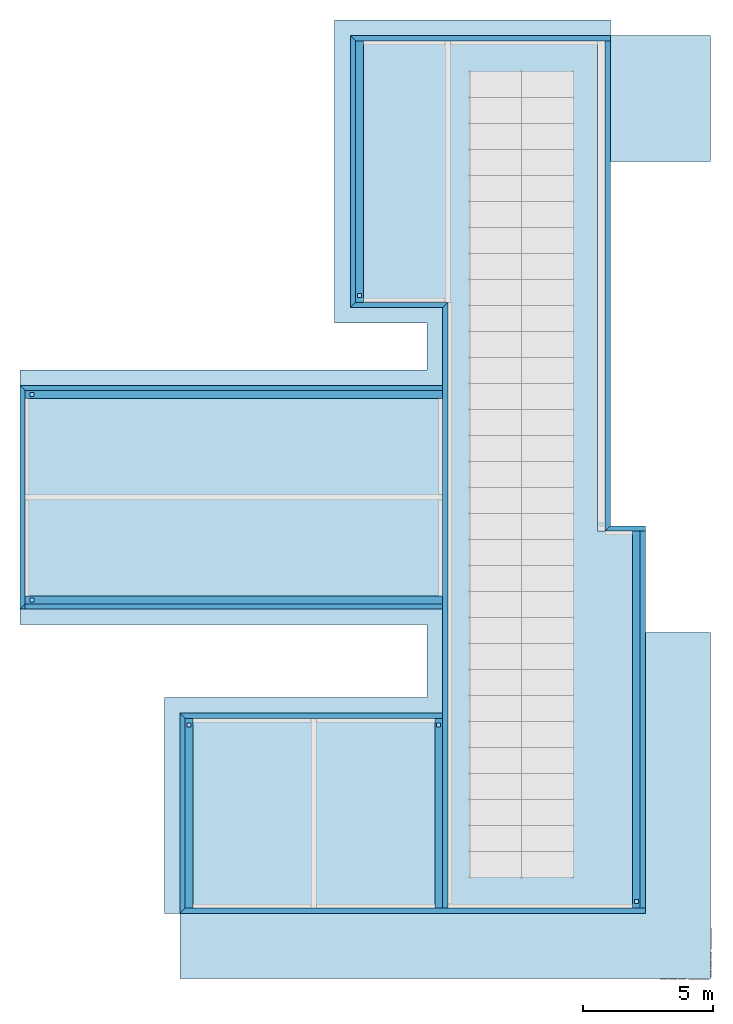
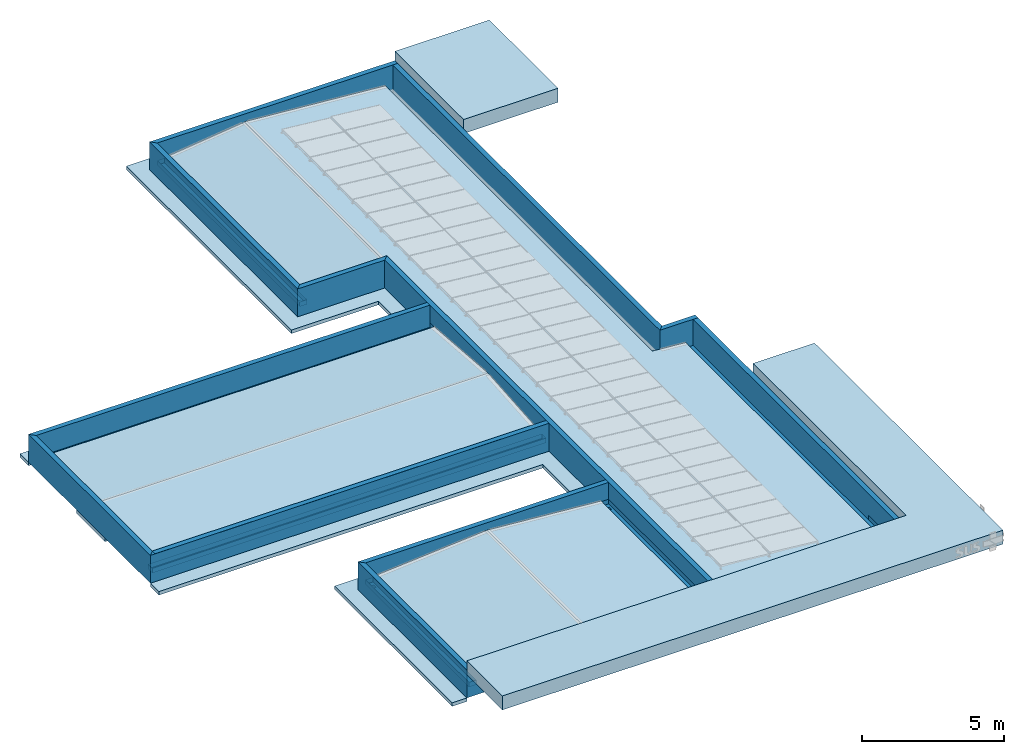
# One storey, part 1 of 5: 14 walls, 11 slabs, 6 discrete accessories.
"""IFC2X3 building model written with IfcOpenShell, lengths in millimetres."""

from ifc_helpers import new_model, entity, si_unit, converted_unit, derived_unit, money_unit, direction, frame, origin_with_axes, place, context, subcontext, project, spatial, polyline, outline, extrude, open_shell, surface_model, material, layer, layer_set, layer_usage, type_object, element, save


model = new_model("IFC2X3")

# Units and contexts
model_context = context("Model", 3, precision=0.01, world=origin_with_axes(), true_north=direction((0.0, 1.0)))
body_context = subcontext(model_context, "Body", "Model", "MODEL_VIEW")
ifc_project = project(units=[si_unit("LENGTHUNIT", "METRE", prefix="MILLI"), si_unit("AREAUNIT", "SQUARE_METRE"), si_unit("VOLUMEUNIT", "CUBIC_METRE"), converted_unit("PLANEANGLEUNIT", "DEGREE", entity("IfcPlaneAngleMeasure", 0.0174532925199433), si_unit("PLANEANGLEUNIT", "RADIAN"), dimensions=[0, 0, 0, 0, 0, 0, 0]), money_unit("USD"), converted_unit("TIMEUNIT", "Year", entity("IfcTimeMeasure", 31556926.0), si_unit("TIMEUNIT", "SECOND"), dimensions=[0, 0, 1, 0, 0, 0, 0]), si_unit("MASSUNIT", "GRAM", prefix="KILO"), si_unit("THERMODYNAMICTEMPERATUREUNIT", "DEGREE_CELSIUS"), si_unit("LUMINOUSINTENSITYUNIT", "LUMEN"), si_unit("ENERGYUNIT", "JOULE", prefix="MEGA"), derived_unit("THERMALCONDUCTANCEUNIT", [(si_unit("POWERUNIT", "WATT"), 1), (si_unit("LENGTHUNIT", "METRE"), -1), (si_unit("THERMODYNAMICTEMPERATUREUNIT", "KELVIN"), -1)]), derived_unit("SPECIFICHEATCAPACITYUNIT", [(si_unit("ENERGYUNIT", "JOULE"), 1), (si_unit("MASSUNIT", "GRAM", prefix="KILO"), -1), (si_unit("THERMODYNAMICTEMPERATUREUNIT", "KELVIN"), -1)]), derived_unit("MASSDENSITYUNIT", [(si_unit("MASSUNIT", "GRAM", prefix="KILO"), 1), (si_unit("VOLUMEUNIT", "CUBIC_METRE"), -1)])], contexts=[model_context])

# Site, building, storey
site_placement = place(None, origin_with_axes())
site = spatial("IfcSite", under=ifc_project, at=site_placement, Name="Site", CompositionType="ELEMENT")
building_placement = place(site_placement, origin_with_axes())
building = spatial("IfcBuilding", under=site, at=building_placement, Name="Building", CompositionType="ELEMENT")
storey_placement = place(building_placement, frame((0.0, 0.0, 3650.0), z_axis=(0.0, 0.0, 1.0), x_axis=(1.0, 0.0, 0.0)))
storey = spatial("IfcBuildingStorey", under=building, at=storey_placement, Name="COBERTURA", CompositionType="ELEMENT", Elevation=3650.0)

# Slabs
ifc_material_1 = material(Name="_GESSO")
ifc_layer_1 = layer(ifc_material_1, 600.0, ventilated="UNKNOWN")
ifc_layer_set_1 = layer_set([ifc_layer_1], Name="_GESSO 600")
ifc_layer_usage_1 = layer_usage(ifc_layer_set_1, "AXIS3", "NEGATIVE", 600.0)
slab_type_1 = type_object("IfcSlabType", Name="_GESSO 600", PredefinedType="FLOOR")
slab_1_placement = place(storey_placement, frame((252024.3447454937, 981.2401305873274, 1599.999999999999), z_axis=(0.0, 0.0, 1.0), x_axis=(1.0, 0.0, 0.0)))
element("IfcSlab", 1, at=slab_1_placement, inside=storey, type_object=slab_type_1, material=ifc_layer_usage_1, Name="Laje Impermeabilizada", PredefinedType="FLOOR", context=body_context, shape_type="SweptSolid", body=[
    extrude(outline(polyline([(0.0, 0.0), (3850.763068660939, 0.0), (3850.763068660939, 4849.999993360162), (0.0, 4849.999993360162), (0.0, 0.0)])), frame((0.0, 0.0, -600.0), z_axis=(0.0, 0.0, 1.0), x_axis=(1.0, 0.0, 0.0)), (0.0, 0.0, 1.0), 600.0),
])
ifc_layer_usage_2 = layer_usage(ifc_layer_set_1, "AXIS3", "NEGATIVE", 600.0)
slab_2_placement = place(storey_placement, frame((253375.1078141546, -27920.56501509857, 1599.999999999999), z_axis=(0.0, 0.0, 1.0), x_axis=(1.0, 0.0, 0.0)))
element("IfcSlab", 2, at=slab_2_placement, inside=storey, type_object=slab_type_1, material=ifc_layer_usage_2, Name="Laje Impermeabilizada", PredefinedType="FLOOR", context=body_context, shape_type="SweptSolid", body=[
    extrude(outline(polyline([(0.0, 0.0), (-17900.16553730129, 0.0), (-17900.16553730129, -2500.000000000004), (2500.0, -2500.000000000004), (2500.0, 199.9998606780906), (2500.0, 10799.97190680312), (0.0, 10799.97190680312), (0.0, 0.0)])), frame((0.0, 0.0, -600.0), z_axis=(0.0, 0.0, 1.0), x_axis=(1.0, 0.0, 0.0)), (0.0, 0.0, 1.0), 600.0),
])
ifc_material_2 = material(Name="_CONTRAPISO")
ifc_layer_2 = layer(ifc_material_2, 30.0, ventilated="UNKNOWN")
ifc_layer_set_2 = layer_set([ifc_layer_2], Name="_CONTRAPISO 30")
ifc_layer_usage_3 = layer_usage(ifc_layer_set_2, "AXIS3", "NEGATIVE", 30.0)
slab_type_2 = type_object("IfcSlabType", Name="_CONTRAPISO 30", PredefinedType="ROOF")
slab_3_placement = place(storey_placement, frame((240823.1864029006, -23020.56497207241, 832.9255922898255), z_axis=(0.0, 0.0, 1.0), x_axis=(0.0, -1.0, 0.0)))
element("IfcSlab", 3, at=slab_3_placement, inside=storey, type_object=slab_type_2, material=ifc_layer_usage_3, Name="Telha em Fibrocimento", PredefinedType="ROOF", context=body_context, shape_type="SweptSolid", body=[
    extrude(outline(polyline([(-2599.999958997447, 4466.071505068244), (-2599.999958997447, 3412.716930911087), (-2599.999958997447, -198.8311291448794), (4700.000043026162, -198.8311291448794), (4700.000043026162, 4466.071505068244), (-2599.999958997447, 4466.071505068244)])), frame((0.0, 0.0, 0.0), z_axis=(0.0, 0.07974522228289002, 0.9968152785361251), x_axis=(1.0, 0.0, 0.0)), (0.0, -0.07974522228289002, 0.9968152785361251), 30.09584688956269),
])
ifc_layer_usage_4 = layer_usage(ifc_layer_set_2, "AXIS3", "NEGATIVE", 30.0)
slab_4_placement = place(storey_placement, frame((242526.7974034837, 5631.240123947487, 425.5637740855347), z_axis=(0.0, 0.0, 1.0), x_axis=(0.0, -1.0, 0.0)))
element("IfcSlab", 4, at=slab_4_placement, inside=storey, type_object=slab_type_2, material=ifc_layer_usage_4, Name="Telha em Fibrocimento", PredefinedType="ROOF", context=body_context, shape_type="SweptSolid", body=[
    extrude(outline(polyline([(0.0, 0.0), (10053.44024991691, 0.0), (10053.44024991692, 3273.594327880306), (0.0, 3273.594327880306), (0.0, 0.0)])), frame((0.0, 0.0, 0.0), z_axis=(0.0, -0.1198623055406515, 0.992790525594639), x_axis=(1.0, 0.0, 0.0)), (0.0, 0.1198623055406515, 0.992790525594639), 30.21785485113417),
])
ifc_layer_usage_5 = layer_usage(ifc_layer_set_2, "AXIS3", "NEGATIVE", 30.0)
slab_5_placement = place(storey_placement, frame((256600.1299483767, -20272.27864581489, -24.01228057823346), z_axis=(0.0, 0.0, 1.0), x_axis=(0.0, 1.0, 0.0)))
element("IfcSlab", 5, at=slab_5_placement, inside=storey, type_object=slab_type_2, material=ifc_layer_usage_5, Name="Telha em Fibrocimento", PredefinedType="ROOF", context=body_context, shape_type="SweptSolid", body=[
    extrude(outline(polyline([(25903.51876976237, 10859.64156959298), (-7448.286369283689, 10859.64156959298), (-7448.286369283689, 3736.845857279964), (7053.673557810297, 3736.845857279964), (7053.673557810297, 5092.15368925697), (25903.51876976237, 5092.15368925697), (25903.51876976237, 10859.64156959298)])), frame((0.0, 0.0, 0.0), z_axis=(0.0, -0.07974522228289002, 0.9968152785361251), x_axis=(1.0, 0.0, 0.0)), (0.0, 0.07974522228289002, 0.9968152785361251), 30.09584688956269),
])
ifc_layer_usage_6 = layer_usage(ifc_layer_set_2, "AXIS3", "NEGATIVE", 30.0)
slab_6_placement = place(storey_placement, frame((245575.0270271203, -8118.648812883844, 422.1750579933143), z_axis=(0.0, 0.0, 1.0), x_axis=(-1.0, 0.0, 0.0)))
element("IfcSlab", 6, at=slab_6_placement, inside=storey, type_object=slab_type_2, material=ifc_layer_usage_6, Name="Telha em Fibrocimento", PredefinedType="ROOF", context=body_context, shape_type="SweptSolid", body=[
    extrude(outline(polyline([(0.0, 0.0), (16048.24177327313, 0.0), (16048.24177327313, 3812.124455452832), (0.0, 3812.124455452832), (0.0, 0.0)])), frame((0.0, 0.0, 0.0), z_axis=(0.0, -0.07974522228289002, 0.9968152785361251), x_axis=(1.0, 0.0, 0.0)), (0.0, 0.07974522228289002, 0.9968152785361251), 30.09584688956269),
])
ifc_layer_usage_7 = layer_usage(ifc_layer_set_2, "AXIS3", "NEGATIVE", 30.0)
slab_7_placement = place(storey_placement, frame((240426.7905881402, -27720.56501509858, 832.9255922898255), z_axis=(0.0, 0.0, 1.0), x_axis=(0.0, 1.0, 0.0)))
element("IfcSlab", 7, at=slab_7_placement, inside=storey, type_object=slab_type_2, material=ifc_layer_usage_7, Name="Telha em Fibrocimento", PredefinedType="ROOF", context=body_context, shape_type="SweptSolid", body=[
    extrude(outline(polyline([(7300.000002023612, 4466.071505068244), (0.0, 4466.071505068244), (0.0, -198.8311291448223), (7300.000002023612, -198.8311291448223), (7300.000002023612, 3412.716930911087), (7300.000002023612, 4466.071505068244)])), frame((0.0, 0.0, 0.0), z_axis=(0.0, 0.07974522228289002, 0.9968152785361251), x_axis=(1.0, 0.0, 0.0)), (0.0, -0.07974522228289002, 0.9968152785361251), 30.09584688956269),
])
ifc_layer_usage_8 = layer_usage(ifc_layer_set_2, "AXIS3", "NEGATIVE", 30.0)
slab_8_placement = place(storey_placement, frame((229526.7852538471, -15718.61661463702, 422.1750579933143), z_axis=(0.0, 0.0, 1.0), x_axis=(1.0, 0.0, 0.0)))
element("IfcSlab", 8, at=slab_8_placement, inside=storey, type_object=slab_type_2, material=ifc_layer_usage_8, Name="Telha em Fibrocimento", PredefinedType="ROOF", context=body_context, shape_type="SweptSolid", body=[
    extrude(outline(polyline([(16048.24177327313, 0.0), (16048.24177327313, 3812.124455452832), (0.0, 3812.124455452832), (0.0, 0.0), (16048.24177327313, 0.0)])), frame((0.0, 0.0, 0.0), z_axis=(0.0, -0.07974522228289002, 0.9968152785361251), x_axis=(1.0, 0.0, 0.0)), (0.0, 0.07974522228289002, 0.9968152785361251), 30.09584688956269),
])
ifc_material_3 = material(Name="_CONCRETO")
ifc_layer_3 = layer(ifc_material_3, 150.0, ventilated="UNKNOWN")
ifc_layer_set_3 = layer_set([ifc_layer_3], Name="CC_Laje")
ifc_layer_usage_9 = layer_usage(ifc_layer_set_3, "AXIS3", "NEGATIVE", 150.0)
slab_type_3 = type_object("IfcSlabType", Name="CC_Laje 150", PredefinedType="FLOOR")
slab_9_placement = place(storey_placement, frame((229326.7921033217, -7622.157191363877, 0.0), z_axis=(0.0, 0.0, 1.0), x_axis=(1.0, 0.0, 0.0)))
element("IfcSlab", 9, at=slab_9_placement, inside=storey, type_object=slab_type_3, material=ifc_layer_usage_9, Name="Laje Impermeabilizada", PredefinedType="FLOOR", context=body_context, shape_type="SweptSolid", body=[
    extrude(outline(polyline([(0.0, 0.0), (16248.24252487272, 0.0), (16248.24252487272, 2999.957065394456), (12700.04354631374, 2999.957065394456), (12700.04354631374, 13453.39720008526), (22697.55264217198, 13453.39720008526), (22697.55264217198, 14053.39730724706), (12100.04343915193, 14053.39730724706), (12100.04343915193, 13453.39720008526), (12100.04343915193, 2399.956958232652), (15648.64640276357, 2399.956958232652), (15648.64640276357, 600.0001071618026), (0.0, 600.0001071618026), (0.0, 0.0)])), frame((0.0, 0.0, -150.0), z_axis=(0.0, 0.0, 1.0), x_axis=(1.0, 0.0, 0.0)), (0.0, 0.0, 1.0), 150.0),
])
ifc_layer_usage_10 = layer_usage(ifc_layer_set_3, "AXIS3", "NEGATIVE", 150.0)
slab_10_placement = place(storey_placement, frame((229326.7921033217, -16818.60505579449, 0.0), z_axis=(0.0, 0.0, 1.0), x_axis=(1.0, 0.0, 0.0)))
element("IfcSlab", 10, at=slab_10_placement, inside=storey, type_object=slab_type_3, material=ifc_layer_usage_10, Name="Laje Impermeabilizada", PredefinedType="FLOOR", context=body_context, shape_type="SweptSolid", body=[
    extrude(outline(polyline([(0.0, 0.0), (15648.24256091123, 0.0), (15648.24256091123, -2801.960004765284), (12848.78979632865, -2801.960004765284), (11751.71558569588, -2801.960004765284), (11151.71562358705, -2801.960004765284), (5548.150235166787, -2801.960004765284), (5548.150235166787, -11101.95995930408), (6148.150197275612, -11101.95995930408), (6148.150197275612, -3401.959966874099), (11151.71562358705, -3401.959966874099), (13451.71557407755, -3401.959966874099), (16248.24261086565, -3401.959966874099), (16248.24261086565, 599.9999621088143), (0.0, 599.9999621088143), (0.0, 0.0)])), frame((0.0, 0.0, -150.0), z_axis=(0.0, 0.0, 1.0), x_axis=(1.0, 0.0, 0.0)), (0.0, 0.0, 1.0), 150.0),
])
ifc_layer_usage_11 = layer_usage(ifc_layer_set_3, "AXIS3", "NEGATIVE", 150.0)
slab_11_placement = place(storey_placement, frame((229526.7921033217, -16022.19467697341, 0.0), z_axis=(0.0, 0.0, 1.0), x_axis=(1.0, 0.0, 0.0)))
element("IfcSlab", 11, at=slab_11_placement, inside=storey, type_object=slab_type_3, material=ifc_layer_usage_11, Name="LAJE COBERTURA", PredefinedType="FLOOR", context=body_context, shape_type="SweptSolid", body=[
    extrude(outline(polyline([(0.0, 0.0), (16248.2426108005, 0.0), (16248.24261086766, -4398.370254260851), (13451.71566715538, -4398.370254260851), (10751.71567674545, -4398.370336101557), (6148.150173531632, -4398.370336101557), (6148.150173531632, -11698.37033812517), (13451.71566715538, -11698.37033812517), (23648.31576668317, -11698.37033812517), (23648.31576668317, -5550.177425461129), (23648.31576668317, -4398.370254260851), (23648.31576668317, 2803.589588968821), (22297.40124694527, 2803.589588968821), (22297.40124694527, 21653.4348009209), (12700.04348259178, 21653.4348009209), (12700.04348259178, 11599.99467697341), (16248.24261093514, 11599.99467697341), (16248.24261084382, 8200.037485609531), (0.0, 8200.037485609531), (0.0, 4999.999958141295), (-199.9999999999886, 4999.999958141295), (-199.9999999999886, 2996.261466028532), (0.0, 2996.261466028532), (0.0, 0.0)])), frame((0.0, 0.0, -150.0), z_axis=(0.0, 0.0, 1.0), x_axis=(1.0, 0.0, 0.0)), (0.0, 0.0, 1.0), 150.0),
])

# Walls
ifc_material_4 = material(Name="_REBOCO")
ifc_layer_4 = layer(ifc_material_4, 30.0, ventilated="UNKNOWN")
ifc_material_5 = material(Name="_ALVENARIA")
ifc_layer_5 = layer(ifc_material_5, 140.0, ventilated="UNKNOWN")
ifc_layer_6 = layer(ifc_material_4, 30.0, ventilated="UNKNOWN")
ifc_layer_set_4 = layer_set([ifc_layer_4, ifc_layer_5, ifc_layer_6], Name="_P20 _3 - 14 - 3")
ifc_layer_usage_12 = layer_usage(ifc_layer_set_4, "AXIS2", "NEGATIVE", 0.0)
wall_type = type_object("IfcWallType", Name="_P20 _3 - 14 - 3 200", PredefinedType="NOTDEFINED")
wall_1_placement = place(storey_placement, frame((229326.7921439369, -16222.19467697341, 0.0), z_axis=(0.0, 0.0, 1.0), x_axis=(0.0, 1.0, 0.0)))
element("IfcWallStandardCase", 12, at=wall_1_placement, inside=storey, type_object=wall_type, material=ifc_layer_usage_12, Name="Parede alvenaria 20cm", context=body_context, shape_type="SweptSolid", body=[
    extrude(outline(polyline([(200.0441891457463, -199.9999999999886), (8403.545864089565, -199.9999999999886), (8603.589591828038, 0.0), (0.0, 0.0), (200.0441891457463, -199.9999999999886)])), origin_with_axes(), (0.0, 0.0, 1.0), 1200.0),
])
ifc_layer_usage_13 = layer_usage(ifc_layer_set_4, "AXIS2", "NEGATIVE", 0.0)
wall_2_placement = place(storey_placement, frame((235474.9422768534, -20220.56501307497, 0.0), z_axis=(0.0, 0.0, 1.0), x_axis=(1.0, -9.498553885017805e-10, 0.0)))
element("IfcWallStandardCase", 13, at=wall_2_placement, inside=storey, type_object=wall_type, material=ifc_layer_usage_13, Name="Parede alvenaria 20cm", context=body_context, shape_type="SweptSolid", body=[
    extrude(outline(polyline([(200.0000001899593, -199.9999999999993), (10100.09243752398, -199.9999999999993), (10100.09243733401, 0.0), (0.0, 0.0), (200.0000001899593, -199.9999999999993)])), origin_with_axes(), (0.0, 0.0, 1.0), 1200.0),
])
ifc_layer_usage_14 = layer_usage(ifc_layer_set_4, "AXIS2", "NEGATIVE", 0.0)
wall_3_placement = place(storey_placement, frame((242026.8356496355, 5831.240008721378, 0.0), z_axis=(0.0, 0.0, 1.0), x_axis=(1.0, 0.0, 0.0)))
element("IfcWallStandardCase", 14, at=wall_3_placement, inside=storey, type_object=wall_type, material=ifc_layer_usage_14, Name="Parede alvenaria 20cm", context=body_context, shape_type="SweptSolid", body=[
    extrude(outline(polyline([(199.9999999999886, -200.0000000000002), (9997.509095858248, -200.0000000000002), (9997.509095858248, 0.0), (0.0, 0.0), (199.9999999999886, -200.0000000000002)])), origin_with_axes(), (0.0, 0.0, 1.0), 1200.0),
])
ifc_layer_usage_15 = layer_usage(ifc_layer_set_4, "AXIS2", "NEGATIVE", 0.0)
wall_4_placement = place(storey_placement, frame((229326.7921439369, -7618.60508514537, 0.0), z_axis=(0.0, 0.0, 1.0), x_axis=(0.9999999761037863, -0.0002186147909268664, 0.0)))
element("IfcWallStandardCase", 15, at=wall_4_placement, inside=storey, type_object=wall_type, material=ifc_layer_usage_15, Name="Parede alvenaria 20cm", context=body_context, shape_type="SweptSolid", body=[
    extrude(outline(polyline([(200.0437277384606, -200.0000000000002), (16248.28668148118, -200.0000000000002), (16248.24295852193, 0.0), (0.0, 0.0), (200.0437277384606, -200.0000000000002)])), origin_with_axes(), (0.0, 0.0, 1.0), 1200.0),
])
ifc_layer_usage_16 = layer_usage(ifc_layer_set_4, "AXIS2", "NEGATIVE", 0.0)
wall_5_placement = place(storey_placement, frame((245575.0347141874, -16218.60509368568, 0.0), z_axis=(0.0, 0.0, 1.0), x_axis=(-0.9999999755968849, -0.0002209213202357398, 0.0)))
element("IfcWallStandardCase", 16, at=wall_5_placement, inside=storey, type_object=wall_type, material=ifc_layer_usage_16, Name="Parede alvenaria 20cm", context=body_context, shape_type="SweptSolid", body=[
    extrude(outline(polyline([(-0.04418426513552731, -199.9999999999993), (16048.19877761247, -199.9999999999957), (16248.24296675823, 0.0), (0.0, 0.0), (-0.04418426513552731, -199.9999999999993)])), origin_with_axes(), (0.0, 0.0, 1.0), 1200.0),
])
ifc_layer_usage_17 = layer_usage(ifc_layer_set_4, "AXIS2", "NEGATIVE", 0.0)
wall_6_placement = place(storey_placement, frame((253375.1078141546, -27920.56501509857, 0.0), z_axis=(0.0, 0.0, 1.0), x_axis=(-1.0, 0.0, 0.0)))
element("IfcWallStandardCase", 17, at=wall_6_placement, inside=storey, type_object=wall_type, material=ifc_layer_usage_17, Name="Parede alvenaria 20cm", context=body_context, shape_type="SweptSolid", body=[
    extrude(outline(polyline([(0.0, -199.9999999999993), (17700.1655373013, -199.9999999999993), (17900.16553730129, 0.0), (0.0, 0.0), (0.0, -199.9999999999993)])), origin_with_axes(), (0.0, 0.0, 1.0), 1200.0),
])
ifc_layer_usage_18 = layer_usage(ifc_layer_set_4, "AXIS2", "NEGATIVE", 0.0)
wall_7_placement = place(storey_placement, frame((245575.0347141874, -4622.200125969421, 0.0), z_axis=(0.0, 0.0, 1.0), x_axis=(-1.0, 0.0, 0.0)))
element("IfcWallStandardCase", 18, at=wall_7_placement, inside=storey, type_object=wall_type, material=ifc_layer_usage_18, Name="Parede alvenaria 20cm", context=body_context, shape_type="SweptSolid", body=[
    extrude(outline(polyline([(-199.9999999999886, -200.0000000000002), (3348.19906455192, -200.0000000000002), (3548.199064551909, 0.0), (0.0, 0.0), (-199.9999999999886, -200.0000000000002)])), origin_with_axes(), (0.0, 0.0, 1.0), 1200.0),
])
ifc_layer_usage_19 = layer_usage(ifc_layer_set_4, "AXIS2", "NEGATIVE", 0.0)
wall_8_placement = place(storey_placement, frame((242026.8356496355, -4622.200125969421, 0.0), z_axis=(0.0, 0.0, 1.0), x_axis=(0.0, 1.0, 0.0)))
element("IfcWallStandardCase", 19, at=wall_8_placement, inside=storey, type_object=wall_type, material=ifc_layer_usage_19, Name="Parede alvenaria 20cm", context=body_context, shape_type="SweptSolid", body=[
    extrude(outline(polyline([(200.0000000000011, -199.9999999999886), (10253.4401346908, -199.9999999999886), (10453.4401346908, 0.0), (0.0, 0.0), (200.0000000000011, -199.9999999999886)])), origin_with_axes(), (0.0, 0.0, 1.0), 1200.0),
])
ifc_layer_usage_20 = layer_usage(ifc_layer_set_4, "AXIS2", "NEGATIVE", 0.0)
wall_9_placement = place(storey_placement, frame((245575.0347141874, -27920.56501509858, 0.0), z_axis=(0.0, 0.0, 1.0), x_axis=(0.0, 1.0, 0.0)))
element("IfcWallStandardCase", 20, at=wall_9_placement, inside=storey, type_object=wall_type, material=ifc_layer_usage_20, Name="Parede alvenaria 20cm", context=body_context, shape_type="SweptSolid", body=[
    extrude(outline(polyline([(200.0000000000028, -199.9999999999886), (23498.36488912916, -199.9999999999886), (23298.36488912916, 0.0), (200.0000000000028, 0.0), (200.0000000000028, -199.9999999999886)])), origin_with_axes(), (0.0, 0.0, 1.0), 1200.0),
])
ifc_layer_usage_21 = layer_usage(ifc_layer_set_4, "AXIS2", "POSITIVE", 0.0)
wall_10_placement = place(storey_placement, frame((251824.193350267, -13218.60508800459, 0.0), z_axis=(0.0, 0.0, 1.0), x_axis=(1.0, 0.0, 0.0)))
element("IfcWallStandardCase", 21, at=wall_10_placement, inside=storey, type_object=wall_type, material=ifc_layer_usage_21, Name="Parede alvenaria 20cm", context=body_context, shape_type="SweptSolid", body=[
    extrude(outline(polyline([(0.0, 0.0), (1550.914463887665, 0.0), (1550.914463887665, 199.9999999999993), (199.9999999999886, 199.9999999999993), (0.0, 0.0)])), origin_with_axes(), (0.0, 0.0, 1.0), 1200.0),
])
ifc_layer_usage_22 = layer_usage(ifc_layer_set_4, "AXIS2", "POSITIVE", 0.0)
wall_11_placement = place(storey_placement, frame((229326.7921439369, -16218.66034237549, 0.0), z_axis=(0.0, 0.0, 1.0), x_axis=(0.9999999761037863, 0.0002186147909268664, 0.0)))
element("IfcWallStandardCase", 22, at=wall_11_placement, inside=storey, type_object=wall_type, material=ifc_layer_usage_22, Name="Parede alvenaria 20cm", context=body_context, shape_type="SweptSolid", body=[
    extrude(outline(polyline([(200.0000047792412, 0.0), (16248.24295852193, 0.0), (16248.28668148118, 199.9999999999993), (200.0437277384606, 199.9999999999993), (200.0000047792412, 0.0)])), origin_with_axes(), (0.0, 0.0, 1.0), 1200.0),
])
ifc_layer_usage_23 = layer_usage(ifc_layer_set_4, "AXIS2", "NEGATIVE", 0.0)
wall_12_placement = place(storey_placement, frame((251824.193350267, -13218.60508800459, 0.0), z_axis=(0.0, 0.0, 1.0), x_axis=(0.0, 1.0, 0.0)))
element("IfcWallStandardCase", 23, at=wall_12_placement, inside=storey, type_object=wall_type, material=ifc_layer_usage_23, Name="Parede alvenaria 20cm", context=body_context, shape_type="SweptSolid", body=[
    extrude(outline(polyline([(200.0000000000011, -199.9999999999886), (18849.84521195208, -199.9999999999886), (18849.84521195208, 0.0), (0.0, 0.0), (200.0000000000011, -199.9999999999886)])), origin_with_axes(), (0.0, 0.0, 1.0), 1200.0),
])
ifc_layer_usage_24 = layer_usage(ifc_layer_set_4, "AXIS2", "NEGATIVE", 0.0)
wall_13_placement = place(storey_placement, frame((235474.9422768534, -27920.56501509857, 0.0), z_axis=(0.0, 0.0, 1.0), x_axis=(0.0, 1.0, 0.0)))
element("IfcWallStandardCase", 24, at=wall_13_placement, inside=storey, type_object=wall_type, material=ifc_layer_usage_24, Name="Parede alvenaria 20cm", context=body_context, shape_type="SweptSolid", body=[
    extrude(outline(polyline([(199.9999999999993, -199.9999999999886), (7500.000001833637, -199.9999999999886), (7700.000002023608, 0.0), (0.0, 0.0), (199.9999999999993, -199.9999999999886)])), origin_with_axes(), (0.0, 0.0, 1.0), 1200.0),
])
ifc_layer_usage_25 = layer_usage(ifc_layer_set_4, "AXIS2", "POSITIVE", 0.0)
wall_14_placement = place(storey_placement, frame((253175.1078700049, -13218.60508800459, 0.0), z_axis=(0.0, 0.0, 1.0), x_axis=(0.0, -1.0, 0.0)))
element("IfcWallStandardCase", 25, at=wall_14_placement, inside=storey, type_object=wall_type, material=ifc_layer_usage_25, Name="Parede alvenaria 20cm", context=body_context, shape_type="SweptSolid", body=[
    extrude(outline(polyline([(0.0, 0.0), (14501.95992709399, 0.0), (14501.95992709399, 199.9999999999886), (0.0, 199.9999999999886), (0.0, 0.0)])), origin_with_axes(), (0.0, 0.0, 1.0), 1200.0),
])

# Discrete accessories
discrete_accessory_type = type_object("IfcDiscreteAccessoryType", Name="Gutter 26")
discrete_accessory_1_placement = place(storey_placement, frame((253025.1849043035, -13218.60588480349, 273.9833229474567), z_axis=(0.0, 0.0, 1.0), x_axis=(5.311992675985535e-06, 0.9999999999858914, 0.0)))
element("IfcDiscreteAccessory", 26, at=discrete_accessory_1_placement, inside=storey, type_object=discrete_accessory_type, Name="Calha 02", context=body_context, shape_type="SurfaceModel", body=[
    surface_model("IfcShellBasedSurfaceModel", [(0.0, 150.0, -200.0), (-14501.95833370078, 150.0000000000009, -200.0000000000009), (-14501.95833370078, -149.9999999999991, -200.0000000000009), (0.0, -150.0, -200.0), (-14316.95833370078, 75.0, -200.0000000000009), (-14166.95833370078, 75.0, -200.0000000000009), (-14166.95833370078, -75.0, -200.0000000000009), (-14316.95833370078, -75.0, -200.0000000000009), (-14501.95833370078, 150.0000000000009, 0.0), (0.0, 150.0, 0.0), (-14501.95833370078, -149.9999999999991, 0.0), (0.0, -150.0, 0.0)], [open_shell([[[0, 1, 2, 3], [4, 5, 6, 7]], [[8, 1, 0, 9]], [[2, 10, 11, 3]]])]),
    surface_model("IfcShellBasedSurfaceModel", [(0.0, 150.0, 0.0), (0.0, -150.0, 0.0), (0.0, -150.0, -200.0), (0.0, 150.0, -200.0)], [open_shell([[[0, 1, 2, 3]]])]),
    surface_model("IfcShellBasedSurfaceModel", [(-14501.95833370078, 150.0, 0.0), (-14501.95833370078, -150.0, 0.0), (-14501.95833370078, -150.0, -200.0), (-14501.95833370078, 150.0, -200.0)], [open_shell([[[0, 1, 2, 3]]])]),
])
discrete_accessory_2_placement = place(storey_placement, frame((242376.8508072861, 5631.239211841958, 446.1750651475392), z_axis=(0.0, 0.0, 1.0), x_axis=(5.311992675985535e-06, 0.9999999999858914, 0.0)))
element("IfcDiscreteAccessory", 27, at=discrete_accessory_2_placement, inside=storey, type_object=discrete_accessory_type, Name="Calha 05", context=body_context, shape_type="SurfaceModel", body=[
    surface_model("IfcShellBasedSurfaceModel", [(0.0, 150.0, -200.0), (-10053.44013454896, 150.0000000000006, -200.0000000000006), (-10053.44013454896, -149.9999999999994, -200.0000000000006), (0.0, -150.0, -200.0), (-9868.440134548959, 75.0, -200.0000000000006), (-9718.44013454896, 75.0, -200.0000000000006), (-9718.44013454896, -75.0, -200.0000000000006), (-9868.440134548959, -75.0, -200.0000000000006), (-10053.44013454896, 150.0000000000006, 0.0), (0.0, 150.0, 0.0), (-10053.44013454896, -149.9999999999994, 0.0), (0.0, -150.0, 0.0)], [open_shell([[[0, 1, 2, 3], [4, 5, 6, 7]], [[8, 1, 0, 9]], [[2, 10, 11, 3]]])]),
    surface_model("IfcShellBasedSurfaceModel", [(0.0, 150.0, 0.0), (0.0, -150.0, 0.0), (0.0, -150.0, -200.0), (0.0, 150.0, -200.0)], [open_shell([[[0, 1, 2, 3]]])]),
    surface_model("IfcShellBasedSurfaceModel", [(-10053.44013454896, 150.0, 0.0), (-10053.44013454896, -150.0, 0.0), (-10053.44013454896, -150.0, -200.0), (-10053.44013454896, 150.0, -200.0)], [open_shell([[[0, 1, 2, 3]]])]),
])
discrete_accessory_3_placement = place(storey_placement, frame((245575.0347141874, -7968.648812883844, 446.1750651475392), z_axis=(0.0, 0.0, 1.0), x_axis=(1.0, 0.0, 0.0)))
element("IfcDiscreteAccessory", 28, at=discrete_accessory_3_placement, inside=storey, type_object=discrete_accessory_type, Name="Calha 04", context=body_context, shape_type="SurfaceModel", body=[
    surface_model("IfcShellBasedSurfaceModel", [(0.0, 150.0, -200.0), (-16048.24257025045, 150.000000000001, -200.000000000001), (-16048.24257025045, -149.999999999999, -200.000000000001), (0.0, -150.0, -200.0), (-15863.24257025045, 75.0, -200.000000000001), (-15713.24257025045, 75.0, -200.000000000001), (-15713.24257025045, -75.0, -200.000000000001), (-15863.24257025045, -75.0, -200.000000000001), (-16048.24257025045, 150.000000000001, 0.0), (0.0, 150.0, 0.0), (-16048.24257025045, -149.999999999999, 0.0), (0.0, -150.0, 0.0)], [open_shell([[[0, 1, 2, 3], [4, 5, 6, 7]], [[8, 1, 0, 9]], [[2, 10, 11, 3]]])]),
    surface_model("IfcShellBasedSurfaceModel", [(0.0, 150.0, 0.0), (0.0, -150.0, 0.0), (0.0, -150.0, -200.0), (0.0, 150.0, -200.0)], [open_shell([[[0, 1, 2, 3]]])]),
    surface_model("IfcShellBasedSurfaceModel", [(-16048.24257025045, 150.0, 0.0), (-16048.24257025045, -150.0, 0.0), (-16048.24257025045, -150.0, -200.0), (-16048.24257025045, 150.0, -200.0)], [open_shell([[[0, 1, 2, 3]]])]),
])
discrete_accessory_4_placement = place(storey_placement, frame((235824.9422768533, -27720.56501509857, 476.7777273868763), z_axis=(0.0, 0.0, 1.0), x_axis=(0.0, -1.0, 0.0)))
element("IfcDiscreteAccessory", 29, at=discrete_accessory_4_placement, inside=storey, type_object=discrete_accessory_type, Name="Calha 01", context=body_context, shape_type="SurfaceModel", body=[
    surface_model("IfcShellBasedSurfaceModel", [(0.0, 150.0, -200.0), (-7300.000002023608, 150.0000000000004, -200.0000000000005), (-7300.000002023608, -149.9999999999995, -200.0000000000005), (0.0, -150.0, -200.0), (-7115.000002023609, 75.0, -200.0000000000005), (-6965.000002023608, 75.0, -200.0000000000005), (-6965.000002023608, -75.0, -200.0000000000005), (-7115.000002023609, -75.0, -200.0000000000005), (-7300.000002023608, 150.0000000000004, 0.0), (0.0, 150.0, 0.0), (-7300.000002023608, -149.9999999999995, 0.0), (0.0, -150.0, 0.0)], [open_shell([[[0, 1, 2, 3], [4, 5, 6, 7]], [[8, 1, 0, 9]], [[2, 10, 11, 3]]])]),
    surface_model("IfcShellBasedSurfaceModel", [(0.0, 150.0, 0.0), (0.0, -150.0, 0.0), (0.0, -150.0, -200.0), (0.0, 150.0, -200.0)], [open_shell([[[0, 1, 2, 3]]])]),
    surface_model("IfcShellBasedSurfaceModel", [(-7300.000002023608, 150.0, 0.0), (-7300.000002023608, -150.0, 0.0), (-7300.000002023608, -150.0, -200.0), (-7300.000002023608, 150.0, -200.0)], [open_shell([[[0, 1, 2, 3]]])]),
])
discrete_accessory_5_placement = place(storey_placement, frame((245575.0347141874, -15868.61661463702, 446.1750651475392), z_axis=(0.0, 0.0, 1.0), x_axis=(-1.0, 0.0, 0.0)))
element("IfcDiscreteAccessory", 30, at=discrete_accessory_5_placement, inside=storey, type_object=discrete_accessory_type, Name="Calha 04", context=body_context, shape_type="SurfaceModel", body=[
    surface_model("IfcShellBasedSurfaceModel", [(0.0, 150.0, -200.0), (0.0, -150.0, -200.0), (16048.24257025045, -149.999999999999, -200.000000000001), (16048.24257025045, 150.000000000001, -200.000000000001), (15863.24257025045, 75.0, -200.000000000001), (15863.24257025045, -75.0, -200.000000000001), (15713.24257025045, -75.0, -200.000000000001), (15713.24257025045, 75.0, -200.000000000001), (0.0, -150.0, 0.0), (16048.24257025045, -149.999999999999, 0.0), (16048.24257025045, 150.000000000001, 0.0), (0.0, 150.0, 0.0)], [open_shell([[[0, 1, 2, 3], [4, 5, 6, 7]], [[2, 1, 8, 9]], [[10, 11, 0, 3]]])]),
    surface_model("IfcShellBasedSurfaceModel", [(0.0, 150.0, 0.0), (0.0, 150.0, -200.0), (0.0, -150.0, -200.0), (0.0, -150.0, 0.0)], [open_shell([[[0, 1, 2, 3]]])]),
    surface_model("IfcShellBasedSurfaceModel", [(16048.24257025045, 150.0, 0.0), (16048.24257025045, 150.0, -200.0), (16048.24257025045, -150.0, -200.0), (16048.24257025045, -150.0, 0.0)], [open_shell([[[0, 1, 2, 3]]])]),
])
discrete_accessory_6_placement = place(storey_placement, frame((245425.0347141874, -27720.56501509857, 476.7777273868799), z_axis=(0.0, 0.0, 1.0), x_axis=(0.0, 1.0, 0.0)))
element("IfcDiscreteAccessory", 31, at=discrete_accessory_6_placement, inside=storey, type_object=discrete_accessory_type, Name="Calha 01", context=body_context, shape_type="SurfaceModel", body=[
    surface_model("IfcShellBasedSurfaceModel", [(0.0, 150.0, -200.0), (0.0, -150.0, -200.0), (7300.000002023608, -149.9999999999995, -200.0000000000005), (7300.000002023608, 150.0000000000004, -200.0000000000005), (7115.000002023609, 75.0, -200.0000000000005), (7115.000002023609, -75.0, -200.0000000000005), (6965.000002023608, -75.0, -200.0000000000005), (6965.000002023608, 75.0, -200.0000000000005), (0.0, -150.0, 0.0), (7300.000002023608, -149.9999999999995, 0.0), (7300.000002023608, 150.0000000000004, 0.0), (0.0, 150.0, 0.0)], [open_shell([[[0, 1, 2, 3], [4, 5, 6, 7]], [[2, 1, 8, 9]], [[10, 11, 0, 3]]])]),
    surface_model("IfcShellBasedSurfaceModel", [(0.0, 150.0, 0.0), (0.0, 150.0, -200.0), (0.0, -150.0, -200.0), (0.0, -150.0, 0.0)], [open_shell([[[0, 1, 2, 3]]])]),
    surface_model("IfcShellBasedSurfaceModel", [(7300.000002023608, 150.0, 0.0), (7300.000002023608, 150.0, -200.0), (7300.000002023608, -150.0, -200.0), (7300.000002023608, -150.0, 0.0)], [open_shell([[[0, 1, 2, 3]]])]),
])

save(model, "model.ifc")
